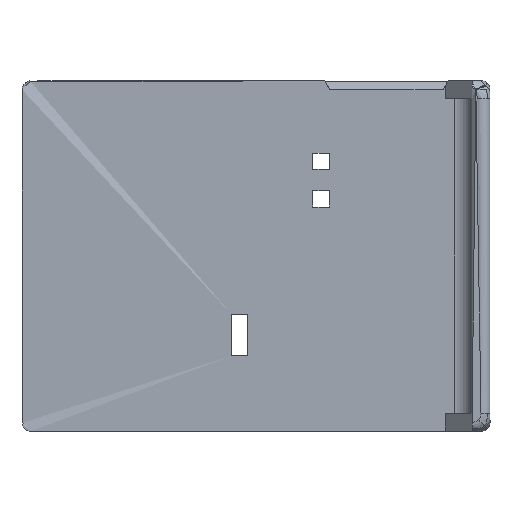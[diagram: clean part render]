
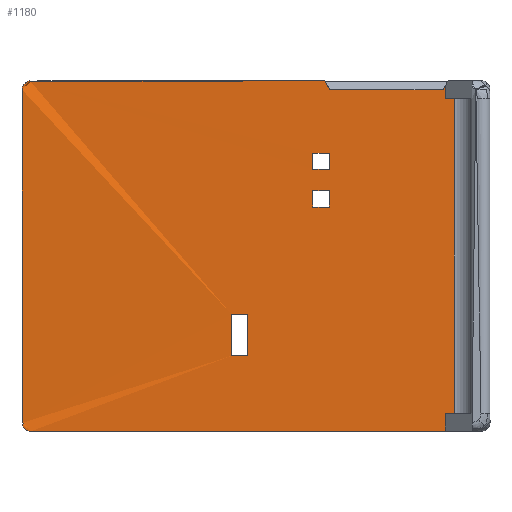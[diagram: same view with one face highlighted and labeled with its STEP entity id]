
A CAD part, front view. The second image highlights one B-rep face of the part: STEP entity #1180.
In plain terms, the highlighted planar face has unit normal (0, -1, 0).
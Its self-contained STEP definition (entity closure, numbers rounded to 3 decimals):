
#25=FACE_BOUND('',#325,.T.);
#26=FACE_BOUND('',#326,.T.);
#27=FACE_BOUND('',#327,.T.);
#34=LINE('',#2893,#117);
#35=LINE('',#2896,#118);
#36=LINE('',#2898,#119);
#37=LINE('',#2900,#120);
#38=LINE('',#2902,#121);
#39=LINE('',#2904,#122);
#40=LINE('',#2906,#123);
#41=LINE('',#2908,#124);
#42=LINE('',#2910,#125);
#43=LINE('',#2912,#126);
#44=LINE('',#2913,#127);
#45=LINE('',#2916,#128);
#46=LINE('',#2919,#129);
#47=LINE('',#2921,#130);
#48=LINE('',#2923,#131);
#49=LINE('',#2924,#132);
#50=LINE('',#2927,#133);
#51=LINE('',#2929,#134);
#52=LINE('',#2931,#135);
#53=LINE('',#2932,#136);
#54=LINE('',#2934,#137);
#55=LINE('',#2936,#138);
#56=LINE('',#2937,#139);
#117=VECTOR('',#1437,10.);
#118=VECTOR('',#1440,10.);
#119=VECTOR('',#1441,10.);
#120=VECTOR('',#1442,10.);
#121=VECTOR('',#1443,10.);
#122=VECTOR('',#1444,10.);
#123=VECTOR('',#1445,10.);
#124=VECTOR('',#1446,10.);
#125=VECTOR('',#1447,10.);
#126=VECTOR('',#1448,10.);
#127=VECTOR('',#1449,10.);
#128=VECTOR('',#1452,10.);
#129=VECTOR('',#1453,10.);
#130=VECTOR('',#1454,10.);
#131=VECTOR('',#1455,10.);
#132=VECTOR('',#1456,10.);
#133=VECTOR('',#1457,10.);
#134=VECTOR('',#1458,10.);
#135=VECTOR('',#1459,10.);
#136=VECTOR('',#1460,10.);
#137=VECTOR('',#1461,10.);
#138=VECTOR('',#1462,10.);
#139=VECTOR('',#1463,10.);
#198=PLANE('',#1276);
#254=FACE_OUTER_BOUND('',#324,.T.);
#324=EDGE_LOOP('',(#863,#864,#865,#866,#867,#868,#869,#870,#871,#872,#873,
#874,#875));
#325=EDGE_LOOP('',(#876,#877,#878,#879));
#326=EDGE_LOOP('',(#880,#881,#882,#883));
#327=EDGE_LOOP('',(#884,#885,#886,#887));
#422=CIRCLE('',#1274,1.);
#423=CIRCLE('',#1277,1.);
#511=VERTEX_POINT('',#2555);
#519=VERTEX_POINT('',#2738);
#526=VERTEX_POINT('',#2882);
#528=VERTEX_POINT('',#2887);
#530=VERTEX_POINT('',#2891);
#531=VERTEX_POINT('',#2895);
#532=VERTEX_POINT('',#2897);
#533=VERTEX_POINT('',#2899);
#534=VERTEX_POINT('',#2901);
#535=VERTEX_POINT('',#2903);
#536=VERTEX_POINT('',#2905);
#537=VERTEX_POINT('',#2907);
#538=VERTEX_POINT('',#2909);
#539=VERTEX_POINT('',#2911);
#540=VERTEX_POINT('',#2914);
#541=VERTEX_POINT('',#2917);
#542=VERTEX_POINT('',#2918);
#543=VERTEX_POINT('',#2920);
#544=VERTEX_POINT('',#2922);
#545=VERTEX_POINT('',#2925);
#546=VERTEX_POINT('',#2926);
#547=VERTEX_POINT('',#2928);
#548=VERTEX_POINT('',#2930);
#549=VERTEX_POINT('',#2933);
#550=VERTEX_POINT('',#2935);
#659=EDGE_CURVE('',#526,#519,#422,.T.);
#663=EDGE_CURVE('',#528,#530,#34,.T.);
#664=EDGE_CURVE('',#526,#531,#35,.T.);
#665=EDGE_CURVE('',#532,#531,#36,.T.);
#666=EDGE_CURVE('',#532,#533,#37,.T.);
#667=EDGE_CURVE('',#534,#533,#38,.T.);
#668=EDGE_CURVE('',#534,#535,#39,.T.);
#669=EDGE_CURVE('',#536,#535,#40,.T.);
#670=EDGE_CURVE('',#536,#537,#41,.T.);
#671=EDGE_CURVE('',#537,#538,#42,.T.);
#672=EDGE_CURVE('',#538,#539,#43,.T.);
#673=EDGE_CURVE('',#539,#511,#44,.T.);
#674=EDGE_CURVE('',#540,#511,#423,.T.);
#675=EDGE_CURVE('',#540,#519,#45,.F.);
#676=EDGE_CURVE('',#541,#542,#46,.T.);
#677=EDGE_CURVE('',#542,#543,#47,.T.);
#678=EDGE_CURVE('',#543,#544,#48,.T.);
#679=EDGE_CURVE('',#544,#541,#49,.T.);
#680=EDGE_CURVE('',#545,#546,#50,.T.);
#681=EDGE_CURVE('',#546,#547,#51,.T.);
#682=EDGE_CURVE('',#547,#548,#52,.T.);
#683=EDGE_CURVE('',#548,#545,#53,.T.);
#684=EDGE_CURVE('',#549,#528,#54,.T.);
#685=EDGE_CURVE('',#530,#550,#55,.T.);
#686=EDGE_CURVE('',#550,#549,#56,.T.);
#863=ORIENTED_EDGE('',*,*,#659,.F.);
#864=ORIENTED_EDGE('',*,*,#664,.T.);
#865=ORIENTED_EDGE('',*,*,#665,.F.);
#866=ORIENTED_EDGE('',*,*,#666,.T.);
#867=ORIENTED_EDGE('',*,*,#667,.F.);
#868=ORIENTED_EDGE('',*,*,#668,.T.);
#869=ORIENTED_EDGE('',*,*,#669,.F.);
#870=ORIENTED_EDGE('',*,*,#670,.T.);
#871=ORIENTED_EDGE('',*,*,#671,.T.);
#872=ORIENTED_EDGE('',*,*,#672,.T.);
#873=ORIENTED_EDGE('',*,*,#673,.T.);
#874=ORIENTED_EDGE('',*,*,#674,.F.);
#875=ORIENTED_EDGE('',*,*,#675,.T.);
#876=ORIENTED_EDGE('',*,*,#676,.T.);
#877=ORIENTED_EDGE('',*,*,#677,.T.);
#878=ORIENTED_EDGE('',*,*,#678,.T.);
#879=ORIENTED_EDGE('',*,*,#679,.T.);
#880=ORIENTED_EDGE('',*,*,#680,.T.);
#881=ORIENTED_EDGE('',*,*,#681,.T.);
#882=ORIENTED_EDGE('',*,*,#682,.T.);
#883=ORIENTED_EDGE('',*,*,#683,.T.);
#884=ORIENTED_EDGE('',*,*,#684,.T.);
#885=ORIENTED_EDGE('',*,*,#663,.T.);
#886=ORIENTED_EDGE('',*,*,#685,.T.);
#887=ORIENTED_EDGE('',*,*,#686,.T.);
#1180=ADVANCED_FACE('',(#254,#25,#26,#27),#198,.T.);
#1274=AXIS2_PLACEMENT_3D('',#2884,#1430,#1431);
#1276=AXIS2_PLACEMENT_3D('',#2894,#1438,#1439);
#1277=AXIS2_PLACEMENT_3D('',#2915,#1450,#1451);
#1430=DIRECTION('center_axis',(0.,1.,0.));
#1431=DIRECTION('ref_axis',(-0.707,0.,-0.707));
#1437=DIRECTION('',(-1.,0.,0.));
#1438=DIRECTION('center_axis',(0.,-1.,0.));
#1439=DIRECTION('ref_axis',(0.,0.,-1.));
#1440=DIRECTION('',(1.,0.,0.));
#1441=DIRECTION('',(0.,0.,-1.));
#1442=DIRECTION('',(1.,0.,0.));
#1443=DIRECTION('',(0.,0.,-1.));
#1444=DIRECTION('',(-1.,0.,0.));
#1445=DIRECTION('',(0.,0.,-1.));
#1446=DIRECTION('',(-0.5,0.,-0.866));
#1447=DIRECTION('',(-1.,0.,0.));
#1448=DIRECTION('',(-0.5,0.,0.866));
#1449=DIRECTION('',(-1.,0.,0.));
#1450=DIRECTION('center_axis',(0.,1.,0.));
#1451=DIRECTION('ref_axis',(-0.707,0.,0.707));
#1452=DIRECTION('',(0.,0.,1.));
#1453=DIRECTION('',(1.,0.,0.));
#1454=DIRECTION('',(0.,0.,-1.));
#1455=DIRECTION('',(-1.,0.,0.));
#1456=DIRECTION('',(0.,0.,1.));
#1457=DIRECTION('',(1.,0.,0.));
#1458=DIRECTION('',(0.,0.,-1.));
#1459=DIRECTION('',(-1.,0.,0.));
#1460=DIRECTION('',(0.,0.,1.));
#1461=DIRECTION('',(0.,0.,-1.));
#1462=DIRECTION('',(0.,0.,1.));
#1463=DIRECTION('',(1.,0.,0.));
#2555=CARTESIAN_POINT('',(-2.11,15.922,4.393));
#2738=CARTESIAN_POINT('',(-2.963,15.922,-33.54));
#2882=CARTESIAN_POINT('',(-2.07,15.5,-34.5));
#2884=CARTESIAN_POINT('Origin',(-2.07,15.5,-33.5));
#2887=CARTESIAN_POINT('',(22.05,15.5,-26.1));
#2891=CARTESIAN_POINT('',(20.25,15.5,-26.1));
#2893=CARTESIAN_POINT('',(21.825,15.5,-26.1));
#2894=CARTESIAN_POINT('Origin',(22.5,15.5,-15.));
#2895=CARTESIAN_POINT('',(44.,15.5,-34.5));
#2896=CARTESIAN_POINT('',(24.43,15.5,-34.5));
#2897=CARTESIAN_POINT('',(44.,15.5,-32.5));
#2898=CARTESIAN_POINT('',(44.,15.5,-11.35));
#2899=CARTESIAN_POINT('',(45.,15.5,-32.5));
#2900=CARTESIAN_POINT('',(34.75,15.5,-32.5));
#2901=CARTESIAN_POINT('',(45.,15.5,2.5));
#2902=CARTESIAN_POINT('',(45.,15.5,-11.35));
#2903=CARTESIAN_POINT('',(44.,15.5,2.5));
#2904=CARTESIAN_POINT('',(34.75,15.5,2.5));
#2905=CARTESIAN_POINT('',(44.,15.5,3.884));
#2906=CARTESIAN_POINT('',(44.,15.5,-11.35));
#2907=CARTESIAN_POINT('',(43.778,15.5,3.5));
#2908=CARTESIAN_POINT('',(37.291,15.5,-7.736));
#2909=CARTESIAN_POINT('',(31.176,15.5,3.5));
#2910=CARTESIAN_POINT('',(22.6,15.5,3.5));
#2911=CARTESIAN_POINT('',(30.599,15.5,4.5));
#2912=CARTESIAN_POINT('',(33.775,15.5,-1.001));
#2913=CARTESIAN_POINT('',(24.43,15.5,4.5));
#2914=CARTESIAN_POINT('',(-3.07,15.5,3.5));
#2915=CARTESIAN_POINT('Origin',(-2.07,15.5,3.5));
#2916=CARTESIAN_POINT('',(-3.07,15.5,-15.));
#2917=CARTESIAN_POINT('',(29.3,15.5,-3.55));
#2918=CARTESIAN_POINT('',(31.1,15.5,-3.55));
#2919=CARTESIAN_POINT('',(26.65,15.5,-3.55));
#2920=CARTESIAN_POINT('',(31.1,15.5,-5.35));
#2921=CARTESIAN_POINT('',(31.1,15.5,-10.025));
#2922=CARTESIAN_POINT('',(29.3,15.5,-5.35));
#2923=CARTESIAN_POINT('',(26.05,15.5,-5.35));
#2924=CARTESIAN_POINT('',(29.3,15.5,-9.425));
#2925=CARTESIAN_POINT('',(29.3,15.5,-7.75));
#2926=CARTESIAN_POINT('',(31.1,15.5,-7.75));
#2927=CARTESIAN_POINT('',(26.65,15.5,-7.75));
#2928=CARTESIAN_POINT('',(31.1,15.5,-9.55));
#2929=CARTESIAN_POINT('',(31.1,15.5,-12.125));
#2930=CARTESIAN_POINT('',(29.3,15.5,-9.55));
#2931=CARTESIAN_POINT('',(26.05,15.5,-9.55));
#2932=CARTESIAN_POINT('',(29.3,15.5,-11.525));
#2933=CARTESIAN_POINT('',(22.05,15.5,-21.5));
#2934=CARTESIAN_POINT('',(22.05,15.5,-19.45));
#2935=CARTESIAN_POINT('',(20.25,15.5,-21.5));
#2936=CARTESIAN_POINT('',(20.25,15.5,-19.45));
#2937=CARTESIAN_POINT('',(24.125,15.5,-21.5));
